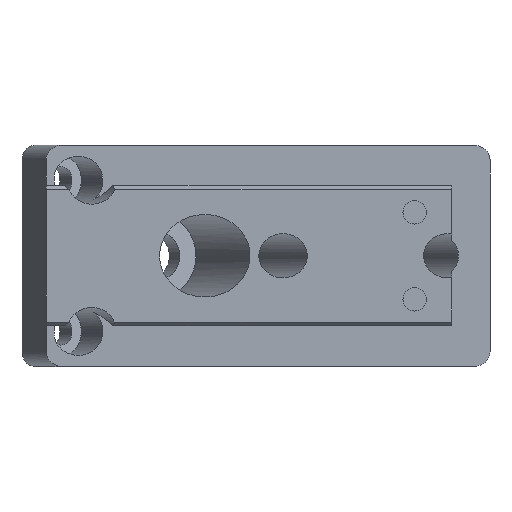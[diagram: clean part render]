
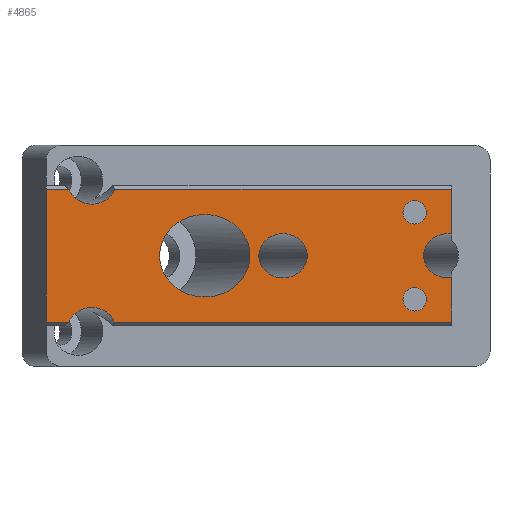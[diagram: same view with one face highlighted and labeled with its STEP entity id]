
A CAD part, top view. The second image highlights one B-rep face of the part: STEP entity #4865.
In plain terms, the highlighted planar face has unit normal (0, 0, 1).
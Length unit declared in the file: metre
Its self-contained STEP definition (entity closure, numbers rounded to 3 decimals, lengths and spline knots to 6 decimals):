
#144=ELLIPSE('',#5170,0.00613,0.0056);
#145=ELLIPSE('',#5171,0.003284,0.003);
#146=ELLIPSE('',#5174,0.003284,0.003);
#147=ELLIPSE('',#5175,0.003284,0.003);
#148=ELLIPSE('',#5176,0.003284,0.003);
#247=CIRCLE('',#5172,0.0016);
#248=CIRCLE('',#5173,0.0016);
#374=ORIENTED_EDGE('',*,*,#1846,.T.);
#375=ORIENTED_EDGE('',*,*,#1847,.T.);
#376=ORIENTED_EDGE('',*,*,#1848,.T.);
#377=ORIENTED_EDGE('',*,*,#1849,.T.);
#378=ORIENTED_EDGE('',*,*,#1850,.F.);
#379=ORIENTED_EDGE('',*,*,#1851,.T.);
#380=ORIENTED_EDGE('',*,*,#1852,.F.);
#381=ORIENTED_EDGE('',*,*,#1853,.T.);
#382=ORIENTED_EDGE('',*,*,#1854,.F.);
#383=ORIENTED_EDGE('',*,*,#1855,.T.);
#384=ORIENTED_EDGE('',*,*,#1856,.T.);
#385=ORIENTED_EDGE('',*,*,#1857,.T.);
#386=ORIENTED_EDGE('',*,*,#1858,.F.);
#387=ORIENTED_EDGE('',*,*,#1859,.T.);
#1846=EDGE_CURVE('',#2582,#2582,#144,.T.);
#1847=EDGE_CURVE('',#2583,#2583,#145,.T.);
#1848=EDGE_CURVE('',#2584,#2584,#247,.T.);
#1849=EDGE_CURVE('',#2585,#2585,#248,.T.);
#1850=EDGE_CURVE('',#2586,#2587,#3058,.T.);
#1851=EDGE_CURVE('',#2586,#2588,#146,.T.);
#1852=EDGE_CURVE('',#2589,#2588,#3059,.T.);
#1853=EDGE_CURVE('',#2589,#2590,#3060,.T.);
#1854=EDGE_CURVE('',#2591,#2590,#147,.F.);
#1855=EDGE_CURVE('',#2591,#2592,#3061,.T.);
#1856=EDGE_CURVE('',#2592,#2593,#3062,.T.);
#1857=EDGE_CURVE('',#2593,#2594,#3063,.T.);
#1858=EDGE_CURVE('',#2595,#2594,#148,.F.);
#1859=EDGE_CURVE('',#2595,#2587,#3064,.T.);
#2582=VERTEX_POINT('',#6831);
#2583=VERTEX_POINT('',#6833);
#2584=VERTEX_POINT('',#6835);
#2585=VERTEX_POINT('',#6837);
#2586=VERTEX_POINT('',#6839);
#2587=VERTEX_POINT('',#6840);
#2588=VERTEX_POINT('',#6842);
#2589=VERTEX_POINT('',#6844);
#2590=VERTEX_POINT('',#6846);
#2591=VERTEX_POINT('',#6848);
#2592=VERTEX_POINT('',#6850);
#2593=VERTEX_POINT('',#6852);
#2594=VERTEX_POINT('',#6854);
#2595=VERTEX_POINT('',#6856);
#3058=LINE('',#6838,#3575);
#3059=LINE('',#6843,#3576);
#3060=LINE('',#6845,#3577);
#3061=LINE('',#6849,#3578);
#3062=LINE('',#6851,#3579);
#3063=LINE('',#6853,#3580);
#3064=LINE('',#6857,#3581);
#3575=VECTOR('',#5584,1.);
#3576=VECTOR('',#5587,1.);
#3577=VECTOR('',#5588,1.);
#3578=VECTOR('',#5591,1.);
#3579=VECTOR('',#5592,1.);
#3580=VECTOR('',#5593,1.);
#3581=VECTOR('',#5596,1.);
#4079=EDGE_LOOP('',(#374));
#4080=EDGE_LOOP('',(#375));
#4081=EDGE_LOOP('',(#376));
#4082=EDGE_LOOP('',(#377));
#4083=EDGE_LOOP('',(#378,#379,#380,#381,#382,#383,#384,#385,#386,#387));
#4390=FACE_BOUND('',#4079,.T.);
#4391=FACE_BOUND('',#4080,.T.);
#4392=FACE_BOUND('',#4081,.T.);
#4393=FACE_BOUND('',#4082,.T.);
#4394=FACE_BOUND('',#4083,.T.);
#4693=PLANE('',#5169);
#4865=ADVANCED_FACE('',(#4390,#4391,#4392,#4393,#4394),#4693,.F.);
#5169=AXIS2_PLACEMENT_3D('',#6829,#5574,#5575);
#5170=AXIS2_PLACEMENT_3D('',#6830,#5576,#5577);
#5171=AXIS2_PLACEMENT_3D('',#6832,#5578,#5579);
#5172=AXIS2_PLACEMENT_3D('',#6834,#5580,#5581);
#5173=AXIS2_PLACEMENT_3D('',#6836,#5582,#5583);
#5174=AXIS2_PLACEMENT_3D('',#6841,#5585,#5586);
#5175=AXIS2_PLACEMENT_3D('',#6847,#5589,#5590);
#5176=AXIS2_PLACEMENT_3D('',#6855,#5594,#5595);
#5574=DIRECTION('',(0.,0.,-1.));
#5575=DIRECTION('',(-1.,0.,0.));
#5576=DIRECTION('',(0.,0.,-1.));
#5577=DIRECTION('',(-1.,0.,0.));
#5578=DIRECTION('',(0.,0.,-1.));
#5579=DIRECTION('',(-1.,0.,0.));
#5580=DIRECTION('',(0.,0.,-1.));
#5581=DIRECTION('',(-1.,0.,0.));
#5582=DIRECTION('',(0.,0.,-1.));
#5583=DIRECTION('',(-1.,0.,0.));
#5584=DIRECTION('',(0.,-1.,0.));
#5585=DIRECTION('',(0.,0.,-1.));
#5586=DIRECTION('',(-1.,0.,0.));
#5587=DIRECTION('',(0.,-1.,0.));
#5588=DIRECTION('',(-1.,0.,0.));
#5589=DIRECTION('',(0.,0.,-1.));
#5590=DIRECTION('',(-1.,0.,0.));
#5591=DIRECTION('',(-1.,0.,0.));
#5592=DIRECTION('',(0.,-1.,0.));
#5593=DIRECTION('',(1.,0.,0.));
#5594=DIRECTION('',(0.,0.,-1.));
#5595=DIRECTION('',(-1.,0.,0.));
#5596=DIRECTION('',(1.,0.,0.));
#6829=CARTESIAN_POINT('',(0.055,0.,0.0041));
#6830=CARTESIAN_POINT('',(0.021529,0.,0.0041));
#6831=CARTESIAN_POINT('',(0.015399,0.,0.0041));
#6832=CARTESIAN_POINT('',(0.032147,0.,0.0041));
#6833=CARTESIAN_POINT('',(0.028863,0.,0.0041));
#6834=CARTESIAN_POINT('',(0.05,0.0059,0.0041));
#6835=CARTESIAN_POINT('',(0.0484,0.0059,0.0041));
#6836=CARTESIAN_POINT('',(0.05,-0.0059,0.0041));
#6837=CARTESIAN_POINT('',(0.0484,-0.0059,0.0041));
#6838=CARTESIAN_POINT('',(0.055,0.,0.0041));
#6839=CARTESIAN_POINT('',(0.055,-0.002962,0.0041));
#6840=CARTESIAN_POINT('',(0.055,-0.009004,0.0041));
#6841=CARTESIAN_POINT('',(0.054477,0.,0.0041));
#6842=CARTESIAN_POINT('',(0.055,0.002962,0.0041));
#6843=CARTESIAN_POINT('',(0.055,0.,0.0041));
#6844=CARTESIAN_POINT('',(0.055,0.009004,0.0041));
#6845=CARTESIAN_POINT('',(0.,0.009004,0.0041));
#6846=CARTESIAN_POINT('',(0.009302,0.009004,0.0041));
#6847=CARTESIAN_POINT('',(0.006204,0.01,0.0041));
#6848=CARTESIAN_POINT('',(0.003106,0.009004,0.0041));
#6849=CARTESIAN_POINT('',(0.,0.009004,0.0041));
#6850=CARTESIAN_POINT('',(0.,0.009004,0.0041));
#6851=CARTESIAN_POINT('',(0.,0.,0.0041));
#6852=CARTESIAN_POINT('',(0.,-0.009004,0.0041));
#6853=CARTESIAN_POINT('',(0.055,-0.009004,0.0041));
#6854=CARTESIAN_POINT('',(0.003106,-0.009004,0.0041));
#6855=CARTESIAN_POINT('',(0.006204,-0.01,0.0041));
#6856=CARTESIAN_POINT('',(0.009302,-0.009004,0.0041));
#6857=CARTESIAN_POINT('',(0.055,-0.009004,0.0041));
